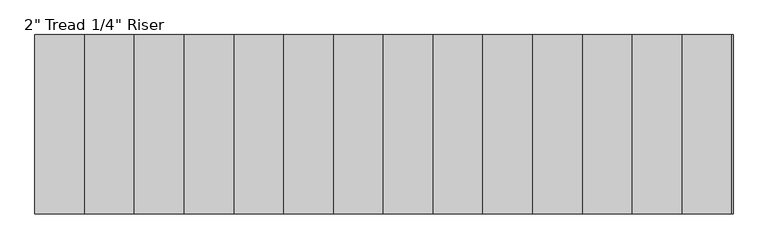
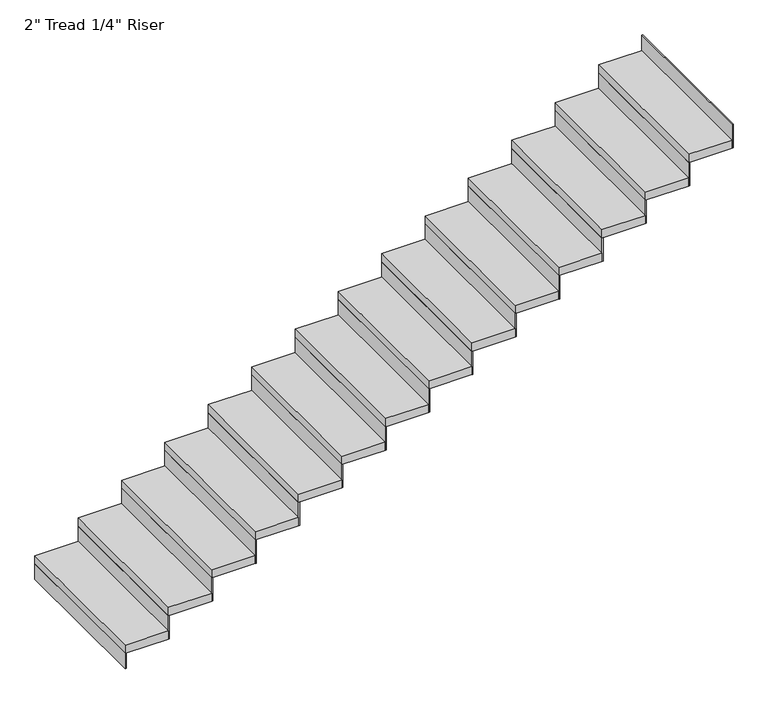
"""IFC4 building model written with IfcOpenShell, lengths in millimetres: stair flight geometry."""

from ifc_helpers import new_model, si_unit, frame, origin, origin_with_axes, place, context, project, spatial, polyline, outline, extrude, source, transform, mapped, element, save


def stair_flight_a2238ce2(model_context):
    return source(origin(), model_context, "Body", "SweptSolid", [
        extrude(outline(polyline([(31615.8766433, -2482.2469585), (31609.5266433, -2482.2469585), (31609.5266433, -1567.8469585), (31615.8766433, -1567.8469585), (31615.8766433, -2482.2469585)])), origin_with_axes(), (0.0, 0.0, 1.0), 94.3428571),
        extrude(outline(polyline([(31863.5266433, -1567.8469585), (31863.5266433, -2482.2469585), (31609.5266433, -2482.2469585), (31609.5266433, -1567.8469585), (31863.5266433, -1567.8469585)])), frame((0.0, 0.0, 94.3428571), z_axis=(0.0, 0.0, 1.0), x_axis=(1.0, 0.0, 0.0)), (0.0, 0.0, 1.0), 50.8),
        extrude(outline(polyline([(31869.8766433, -2482.2469585), (31863.5266433, -2482.2469585), (31863.5266433, -1567.8469585), (31869.8766433, -1567.8469585), (31869.8766433, -2482.2469585)])), frame((0.0, 0.0, 94.3428571), z_axis=(0.0, 0.0, 1.0), x_axis=(1.0, 0.0, 0.0)), (0.0, 0.0, 1.0), 145.1428571),
        extrude(outline(polyline([(32117.5266433, -1567.8469585), (32117.5266433, -2482.2469585), (31863.5266433, -2482.2469585), (31863.5266433, -1567.8469585), (32117.5266433, -1567.8469585)])), frame((0.0, 0.0, 239.4857143), z_axis=(0.0, 0.0, 1.0), x_axis=(1.0, 0.0, 0.0)), (0.0, 0.0, 1.0), 50.8),
        extrude(outline(polyline([(32123.8766433, -2482.2469585), (32117.5266433, -2482.2469585), (32117.5266433, -1567.8469585), (32123.8766433, -1567.8469585), (32123.8766433, -2482.2469585)])), frame((0.0, 0.0, 239.4857143), z_axis=(0.0, 0.0, 1.0), x_axis=(1.0, 0.0, 0.0)), (0.0, 0.0, 1.0), 145.1428571),
        extrude(outline(polyline([(32371.5266433, -1567.8469585), (32371.5266433, -2482.2469585), (32117.5266433, -2482.2469585), (32117.5266433, -1567.8469585), (32371.5266433, -1567.8469585)])), frame((0.0, 0.0, 384.6285714), z_axis=(0.0, 0.0, 1.0), x_axis=(1.0, 0.0, 0.0)), (0.0, 0.0, 1.0), 50.8),
        extrude(outline(polyline([(32377.8766433, -2482.2469585), (32371.5266433, -2482.2469585), (32371.5266433, -1567.8469585), (32377.8766433, -1567.8469585), (32377.8766433, -2482.2469585)])), frame((0.0, 0.0, 384.6285714), z_axis=(0.0, 0.0, 1.0), x_axis=(1.0, 0.0, 0.0)), (0.0, 0.0, 1.0), 145.1428571),
        extrude(outline(polyline([(32625.5266433, -1567.8469585), (32625.5266433, -2482.2469585), (32371.5266433, -2482.2469585), (32371.5266433, -1567.8469585), (32625.5266433, -1567.8469585)])), frame((0.0, 0.0, 529.7714286), z_axis=(0.0, 0.0, 1.0), x_axis=(1.0, 0.0, 0.0)), (0.0, 0.0, 1.0), 50.8),
        extrude(outline(polyline([(32631.8766433, -2482.2469585), (32625.5266433, -2482.2469585), (32625.5266433, -1567.8469585), (32631.8766433, -1567.8469585), (32631.8766433, -2482.2469585)])), frame((0.0, 0.0, 529.7714286), z_axis=(0.0, 0.0, 1.0), x_axis=(1.0, 0.0, 0.0)), (0.0, 0.0, 1.0), 145.1428571),
        extrude(outline(polyline([(32879.5266433, -1567.8469585), (32879.5266433, -2482.2469585), (32625.5266433, -2482.2469585), (32625.5266433, -1567.8469585), (32879.5266433, -1567.8469585)])), frame((0.0, 0.0, 674.9142857), z_axis=(0.0, 0.0, 1.0), x_axis=(1.0, 0.0, 0.0)), (0.0, 0.0, 1.0), 50.8),
        extrude(outline(polyline([(32885.8766433, -2482.2469585), (32879.5266433, -2482.2469585), (32879.5266433, -1567.8469585), (32885.8766433, -1567.8469585), (32885.8766433, -2482.2469585)])), frame((0.0, 0.0, 674.9142857), z_axis=(0.0, 0.0, 1.0), x_axis=(1.0, 0.0, 0.0)), (0.0, 0.0, 1.0), 145.1428571),
        extrude(outline(polyline([(33133.5266433, -1567.8469585), (33133.5266433, -2482.2469585), (32879.5266433, -2482.2469585), (32879.5266433, -1567.8469585), (33133.5266433, -1567.8469585)])), frame((0.0, 0.0, 820.0571429), z_axis=(0.0, 0.0, 1.0), x_axis=(1.0, 0.0, 0.0)), (0.0, 0.0, 1.0), 50.8),
        extrude(outline(polyline([(33139.8766433, -2482.2469585), (33133.5266433, -2482.2469585), (33133.5266433, -1567.8469585), (33139.8766433, -1567.8469585), (33139.8766433, -2482.2469585)])), frame((0.0, 0.0, 820.0571429), z_axis=(0.0, 0.0, 1.0), x_axis=(1.0, 0.0, 0.0)), (0.0, 0.0, 1.0), 145.1428571),
        extrude(outline(polyline([(33387.5266433, -1567.8469585), (33387.5266433, -2482.2469585), (33133.5266433, -2482.2469585), (33133.5266433, -1567.8469585), (33387.5266433, -1567.8469585)])), frame((0.0, 0.0, 965.2), z_axis=(0.0, 0.0, 1.0), x_axis=(1.0, 0.0, 0.0)), (0.0, 0.0, 1.0), 50.8),
        extrude(outline(polyline([(33393.8766433, -2482.2469585), (33387.5266433, -2482.2469585), (33387.5266433, -1567.8469585), (33393.8766433, -1567.8469585), (33393.8766433, -2482.2469585)])), frame((0.0, 0.0, 965.2), z_axis=(0.0, 0.0, 1.0), x_axis=(1.0, 0.0, 0.0)), (0.0, 0.0, 1.0), 145.1428571),
        extrude(outline(polyline([(33641.5266433, -1567.8469585), (33641.5266433, -2482.2469585), (33387.5266433, -2482.2469585), (33387.5266433, -1567.8469585), (33641.5266433, -1567.8469585)])), frame((0.0, 0.0, 1110.3428571), z_axis=(0.0, 0.0, 1.0), x_axis=(1.0, 0.0, 0.0)), (0.0, 0.0, 1.0), 50.8),
        extrude(outline(polyline([(33647.8766433, -2482.2469585), (33641.5266433, -2482.2469585), (33641.5266433, -1567.8469585), (33647.8766433, -1567.8469585), (33647.8766433, -2482.2469585)])), frame((0.0, 0.0, 1110.3428571), z_axis=(0.0, 0.0, 1.0), x_axis=(1.0, 0.0, 0.0)), (0.0, 0.0, 1.0), 145.1428571),
        extrude(outline(polyline([(33895.5266433, -1567.8469585), (33895.5266433, -2482.2469585), (33641.5266433, -2482.2469585), (33641.5266433, -1567.8469585), (33895.5266433, -1567.8469585)])), frame((0.0, 0.0, 1255.4857143), z_axis=(0.0, 0.0, 1.0), x_axis=(1.0, 0.0, 0.0)), (0.0, 0.0, 1.0), 50.8),
        extrude(outline(polyline([(33901.8766433, -2482.2469585), (33895.5266433, -2482.2469585), (33895.5266433, -1567.8469585), (33901.8766433, -1567.8469585), (33901.8766433, -2482.2469585)])), frame((0.0, 0.0, 1255.4857143), z_axis=(0.0, 0.0, 1.0), x_axis=(1.0, 0.0, 0.0)), (0.0, 0.0, 1.0), 145.1428571),
        extrude(outline(polyline([(34149.5266433, -1567.8469585), (34149.5266433, -2482.2469585), (33895.5266433, -2482.2469585), (33895.5266433, -1567.8469585), (34149.5266433, -1567.8469585)])), frame((0.0, 0.0, 1400.6285714), z_axis=(0.0, 0.0, 1.0), x_axis=(1.0, 0.0, 0.0)), (0.0, 0.0, 1.0), 50.8),
        extrude(outline(polyline([(34155.8766433, -2482.2469585), (34149.5266433, -2482.2469585), (34149.5266433, -1567.8469585), (34155.8766433, -1567.8469585), (34155.8766433, -2482.2469585)])), frame((0.0, 0.0, 1400.6285714), z_axis=(0.0, 0.0, 1.0), x_axis=(1.0, 0.0, 0.0)), (0.0, 0.0, 1.0), 145.1428571),
        extrude(outline(polyline([(34403.5266433, -1567.8469585), (34403.5266433, -2482.2469585), (34149.5266433, -2482.2469585), (34149.5266433, -1567.8469585), (34403.5266433, -1567.8469585)])), frame((0.0, 0.0, 1545.7714286), z_axis=(0.0, 0.0, 1.0), x_axis=(1.0, 0.0, 0.0)), (0.0, 0.0, 1.0), 50.8),
        extrude(outline(polyline([(34409.8766433, -2482.2469585), (34403.5266433, -2482.2469585), (34403.5266433, -1567.8469585), (34409.8766433, -1567.8469585), (34409.8766433, -2482.2469585)])), frame((0.0, 0.0, 1545.7714286), z_axis=(0.0, 0.0, 1.0), x_axis=(1.0, 0.0, 0.0)), (0.0, 0.0, 1.0), 145.1428571),
        extrude(outline(polyline([(34657.5266433, -1567.8469585), (34657.5266433, -2482.2469585), (34403.5266433, -2482.2469585), (34403.5266433, -1567.8469585), (34657.5266433, -1567.8469585)])), frame((0.0, 0.0, 1690.9142857), z_axis=(0.0, 0.0, 1.0), x_axis=(1.0, 0.0, 0.0)), (0.0, 0.0, 1.0), 50.8),
        extrude(outline(polyline([(34663.8766433, -2482.2469585), (34657.5266433, -2482.2469585), (34657.5266433, -1567.8469585), (34663.8766433, -1567.8469585), (34663.8766433, -2482.2469585)])), frame((0.0, 0.0, 1690.9142857), z_axis=(0.0, 0.0, 1.0), x_axis=(1.0, 0.0, 0.0)), (0.0, 0.0, 1.0), 145.1428571),
        extrude(outline(polyline([(34911.5266433, -1567.8469585), (34911.5266433, -2482.2469585), (34657.5266433, -2482.2469585), (34657.5266433, -1567.8469585), (34911.5266433, -1567.8469585)])), frame((0.0, 0.0, 1836.0571429), z_axis=(0.0, 0.0, 1.0), x_axis=(1.0, 0.0, 0.0)), (0.0, 0.0, 1.0), 50.8),
        extrude(outline(polyline([(34917.8766433, -2482.2469585), (34911.5266433, -2482.2469585), (34911.5266433, -1567.8469585), (34917.8766433, -1567.8469585), (34917.8766433, -2482.2469585)])), frame((0.0, 0.0, 1836.0571429), z_axis=(0.0, 0.0, 1.0), x_axis=(1.0, 0.0, 0.0)), (0.0, 0.0, 1.0), 145.1428571),
        extrude(outline(polyline([(35171.8766433, -2482.2469585), (35165.5266433, -2482.2469585), (35165.5266433, -1567.8469585), (35171.8766433, -1567.8469585), (35171.8766433, -2482.2469585)])), frame((0.0, 0.0, 1981.2), z_axis=(0.0, 0.0, 1.0), x_axis=(1.0, 0.0, 0.0)), (0.0, 0.0, 1.0), 145.1428571),
        extrude(outline(polyline([(35165.5266433, -1567.8469585), (35165.5266433, -2482.2469585), (34911.5266433, -2482.2469585), (34911.5266433, -1567.8469585), (35165.5266433, -1567.8469585)])), frame((0.0, 0.0, 1981.2), z_axis=(0.0, 0.0, 1.0), x_axis=(1.0, 0.0, 0.0)), (0.0, 0.0, 1.0), 50.8),
    ])


if __name__ == "__main__":
    model = new_model("IFC4")
    model_context = context("Model", 3, world=origin())
    ifc_project = project(units=[si_unit("LENGTHUNIT", "METRE", prefix="MILLI")], contexts=[model_context])
    site = spatial("IfcSite", under=ifc_project)
    building = spatial("IfcBuilding", under=site)
    placement = place(None, origin())
    stair_flight_shape = stair_flight_a2238ce2(model_context)
    element("IfcStairFlight", 1, ObjectType="2\" Tread 1/4\" Riser", at=placement, inside=building, context=model_context, shape_type="MappedRepresentation", body=[
        mapped(stair_flight_shape, transform((0.0, 0.0, 0.0), x_axis=(1.0, 0.0, 0.0), y_axis=(0.0, 1.0, 0.0), z_axis=(0.0, 0.0, 1.0))),
    ])
    save(model, "model.ifc")
